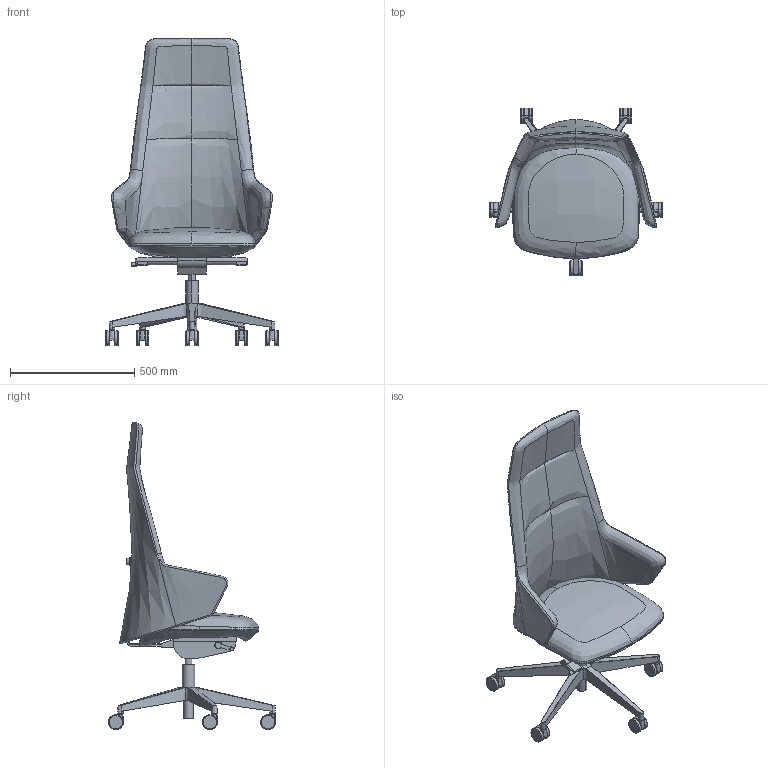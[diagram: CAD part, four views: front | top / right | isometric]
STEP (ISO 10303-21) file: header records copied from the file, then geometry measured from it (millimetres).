
FILE_DESCRIPTION(/* description */ (''),/* implementation_level */ '2;1');
FILE_NAME(/* name */ 'MELODY OFFICE 791-SYS',/* time_stamp */ '2022-10-25T23:10:42+02:00',/* author */ (''),/* organization */ (''),/* preprocessor_version */ 'ST-DEVELOPER v16.5',/* originating_system */ 'Rhino 7.23',/* authorisation */ '');
FILE_SCHEMA (('CONFIG_CONTROL_DESIGN'));
Length unit declared in the file: millimetre
Products named in the file (1): Document
Bounding box: 694.82 x 673.73 x 1237.62 mm (x, y, z)
Volume: 40784372.4 mm3; surface area: 2491519.7 mm2
Topology: 13 solids, 36 shells, 324 faces, 779 edges, 484 vertices
Faces by surface type: bspline 152, plane 129, cylinder 43
Entity records: 26107 total; most frequent: CARTESIAN_POINT 21268, ORIENTED_EDGE 1431, EDGE_CURVE 771, VERTEX_POINT 478, B_SPLINE_CURVE_WITH_KNOTS 409, EDGE_LOOP 325, ADVANCED_FACE 324, FACE_OUTER_BOUND 324
